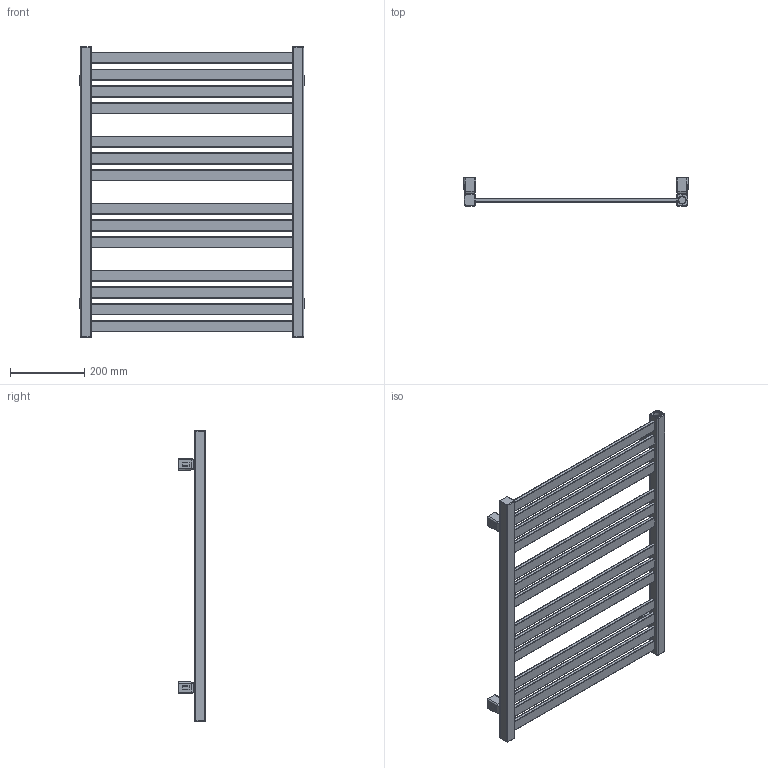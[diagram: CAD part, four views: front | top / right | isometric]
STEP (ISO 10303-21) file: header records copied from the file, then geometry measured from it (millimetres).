
FILE_DESCRIPTION((''),'2;1');
FILE_NAME('Z:\R\G\P\RGPH09 - Grzejnik Marlin\Work\Inventor\Grzejnik Marlin v3.0\Marketing\AutoCad 3D\MR-780-600-SX_MKT.stp','2012-07-25T08:18:01',('PioRo'),(''),'Autodesk Inventor 2012','Autodesk Inventor 2012','');
FILE_SCHEMA(('AUTOMOTIVE_DESIGN { 1 0 10303 214 1 1 1 1 }'));
Length unit declared in the file: millimetre
Products named in the file (3): MR-780-600-SX_MKT; MKT42-00-A v0.2
Assembly tree (5 placements, depth 2):
  MR-780-600-SX_MKT
    MR-780-600-SX_MKT
    MKT42-00-A v0.2  x4
Bounding box: 603.98 x 74.5 x 780 mm (x, y, z)
Volume: 3794671.5 mm3; surface area: 794298.3 mm2
Topology: 5 solids, 5 shells, 449 faces, 1123 edges, 713 vertices
Faces by surface type: cylinder 191, plane 183, bspline 62, torus 9, cone 4
Full cylindrical faces by diameter (mm): 4.134 x4, 10 x4, 12 x4, 18.631 x3
Entity records: 9173 total; most frequent: CARTESIAN_POINT 2815, DIRECTION 1340, ORIENTED_EDGE 1262, EDGE_CURVE 631, AXIS2_PLACEMENT_3D 494, VERTEX_POINT 415, VECTOR 352, LINE 352
